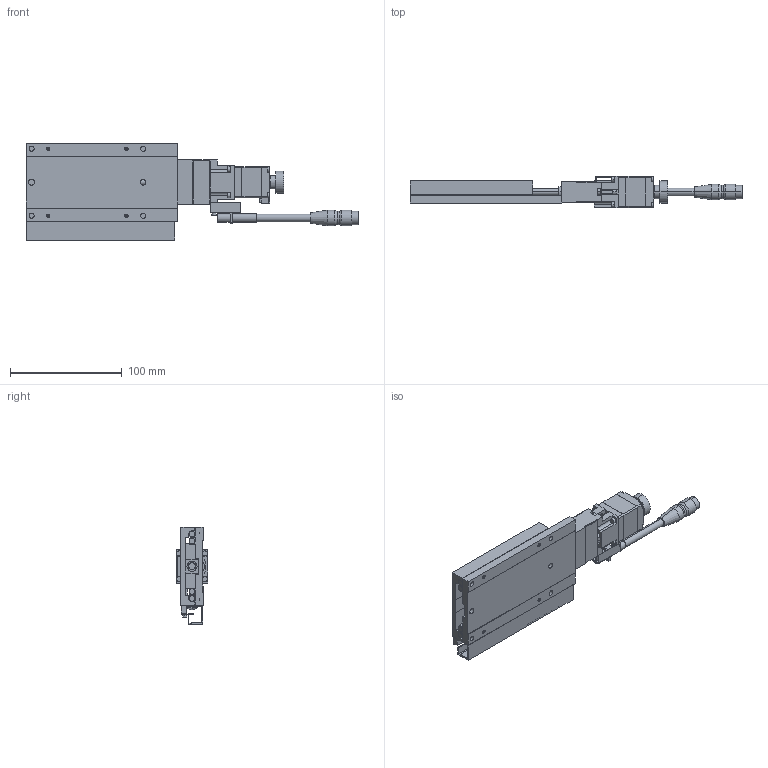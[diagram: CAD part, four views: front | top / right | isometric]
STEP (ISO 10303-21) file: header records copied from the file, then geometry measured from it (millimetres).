
FILE_DESCRIPTION(('STEP AP203'),'1');
FILE_NAME('C:/3D-Trans/3D_PG750T-R□-C4+231013.step','2023-10-13T07:23:55',(' '),(' '),'Spatial InterOp 3D',' ',' ');
FILE_SCHEMA(('CONFIG_CONTROL_DESIGN'));
Length unit declared in the file: millimetre
Products named in the file (6): 1; 2; 3; 4; 5; 6
Bounding box: 297.5 x 28 x 87.4 mm (x, y, z)
Volume: 188431.8 mm3; surface area: 90503.9 mm2
Topology: 6 solids, 6 shells, 743 faces, 1862 edges, 1182 vertices
Faces by surface type: plane 413, cylinder 247, cone 82, extrusion 1
Entity records: 22623 total; most frequent: CARTESIAN_POINT 4095, DIRECTION 3922, ORIENTED_EDGE 3684, EDGE_CURVE 1842, AXIS2_PLACEMENT_3D 1345, VECTOR 1232, LINE 1231, VERTEX_POINT 1182
